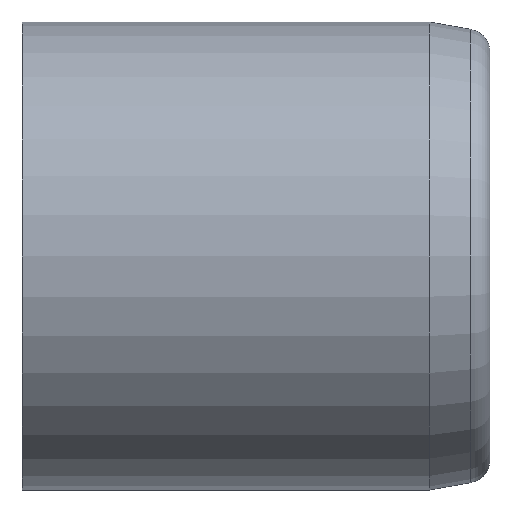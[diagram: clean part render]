
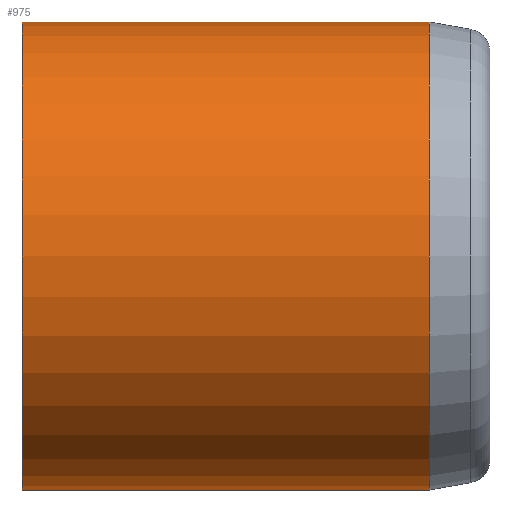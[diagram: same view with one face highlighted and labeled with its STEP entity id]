
A CAD part, left-side view. The second image highlights one B-rep face of the part: STEP entity #975.
In plain terms, the highlighted cylindrical face has radius 10 mm (diameter 20 mm), a partial arc.
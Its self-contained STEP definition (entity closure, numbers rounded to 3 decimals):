
#93 = DIRECTION ( 'NONE',  ( 0., 0., 1. ) ) ;
#101 = CARTESIAN_POINT ( 'NONE',  ( 0., 20.13, 0. ) ) ;
#112 = DIRECTION ( 'NONE',  ( 0., -1., 0. ) ) ;
#177 = CARTESIAN_POINT ( 'NONE',  ( 0., 2.73, 0. ) ) ;
#188 = DIRECTION ( 'NONE',  ( 0., -1., 0. ) ) ;
#191 = DIRECTION ( 'NONE',  ( 0., 0., -1. ) ) ;
#266 = FACE_OUTER_BOUND ( 'NONE', #665, .T. ) ;
#267 = DIRECTION ( 'NONE',  ( 0., 0., 1. ) ) ;
#276 = CARTESIAN_POINT ( 'NONE',  ( 0., -9.8, 0. ) ) ;
#279 = CYLINDRICAL_SURFACE ( 'NONE', #859, 10. ) ;
#283 = DIRECTION ( 'NONE',  ( 0., 1., 0. ) ) ;
#564 = VERTEX_POINT ( 'NONE', #4415 ) ;
#665 = EDGE_LOOP ( 'NONE', ( #1675, #1630, #1679, #1596 ) ) ;
#744 = VERTEX_POINT ( 'NONE', #4472 ) ;
#859 = AXIS2_PLACEMENT_3D ( 'NONE', #276, #283, #267 ) ;
#975 = ADVANCED_FACE ( 'NONE', ( #266 ), #279, .T. ) ;
#1596 = ORIENTED_EDGE ( 'NONE', *, *, #2847, .T. ) ;
#1630 = ORIENTED_EDGE ( 'NONE', *, *, #2868, .F. ) ;
#1675 = ORIENTED_EDGE ( 'NONE', *, *, #2925, .F. ) ;
#1679 = ORIENTED_EDGE ( 'NONE', *, *, #2906, .T. ) ;
#1768 = AXIS2_PLACEMENT_3D ( 'NONE', #177, #188, #191 ) ;
#1787 = CIRCLE ( 'NONE', #1768, 10. ) ;
#1804 = CIRCLE ( 'NONE', #1809, 10. ) ;
#1809 = AXIS2_PLACEMENT_3D ( 'NONE', #101, #112, #93 ) ;
#1834 = VECTOR ( 'NONE', #2350, 1000. ) ;
#1873 = VECTOR ( 'NONE', #2417, 1000. ) ;
#2348 = LINE ( 'NONE', #2349, #1834 ) ;
#2349 = CARTESIAN_POINT ( 'NONE',  ( 0., -9.8, 10. ) ) ;
#2350 = DIRECTION ( 'NONE',  ( 0., 1., 0. ) ) ;
#2417 = DIRECTION ( 'NONE',  ( 0., 1., 0. ) ) ;
#2450 = CARTESIAN_POINT ( 'NONE',  ( 0., 2.73, 10. ) ) ;
#2455 = CARTESIAN_POINT ( 'NONE',  ( 0., 2.73, -10. ) ) ;
#2459 = LINE ( 'NONE', #2469, #1873 ) ;
#2469 = CARTESIAN_POINT ( 'NONE',  ( 0., -9.8, -10. ) ) ;
#2847 = EDGE_CURVE ( 'NONE', #564, #744, #1804, .T. ) ;
#2868 = EDGE_CURVE ( 'NONE', #3209, #3189, #1787, .T. ) ;
#2906 = EDGE_CURVE ( 'NONE', #3209, #564, #2348, .T. ) ;
#2925 = EDGE_CURVE ( 'NONE', #3189, #744, #2459, .T. ) ;
#3189 = VERTEX_POINT ( 'NONE', #2455 ) ;
#3209 = VERTEX_POINT ( 'NONE', #2450 ) ;
#4415 = CARTESIAN_POINT ( 'NONE',  ( 0., 20.13, 10. ) ) ;
#4472 = CARTESIAN_POINT ( 'NONE',  ( 0., 20.13, -10. ) ) ;
